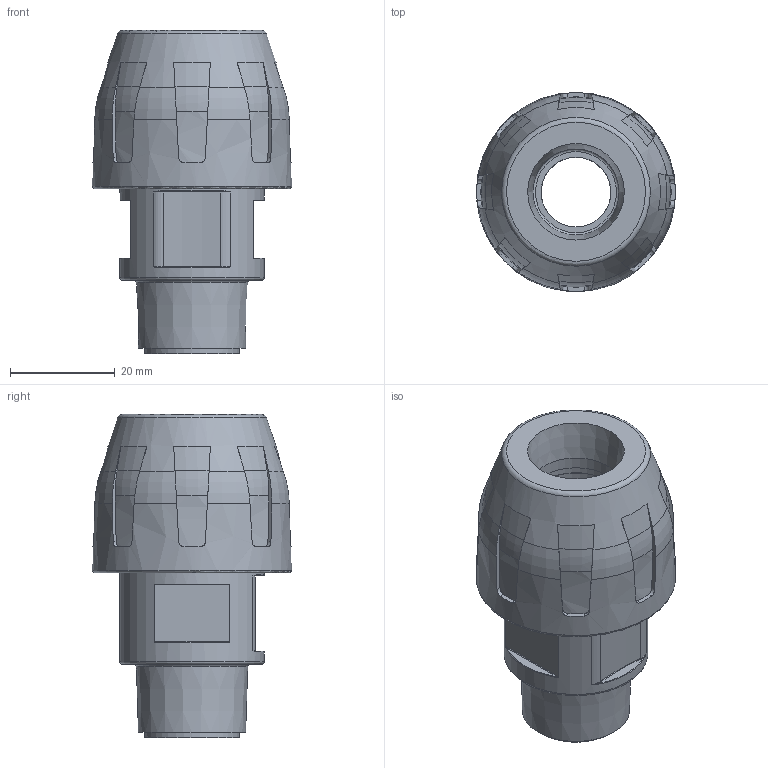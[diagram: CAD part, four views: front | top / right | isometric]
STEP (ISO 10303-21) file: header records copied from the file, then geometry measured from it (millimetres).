
FILE_DESCRIPTION( ( 'STEP AP214' ), '1' );
FILE_NAME( ' ', ' ', ( ' ' ), ( ' ' ), 'PSStep 11.0', 'VISI 17.0', ' ' );
FILE_SCHEMA( ( 'AUTOMOTIVE_DESIGN { 1 0 10303 214 1 1 1 1 }' ) );
Length unit declared in the file: millimetre
Products named in the file (2): 1; 2
Bounding box: 38.12 x 38.1 x 61.8 mm (x, y, z)
Volume: 33242.2 mm3; surface area: 15498 mm2
Topology: 2 solids, 2 shells, 233 faces, 633 edges, 411 vertices
Faces by surface type: plane 105, cone 47, cylinder 35, bspline 26, torus 20
Full cylindrical faces by diameter (mm): 13.342 x1, 16.5 x2, 27.6 x2, 28.5 x2, 28.9 x1, 31 x1, 34.736 x1
Entity records: 10967 total; most frequent: CARTESIAN_POINT 3711, ORIENTED_EDGE 1164, DIRECTION 1048, EDGE_CURVE 582, AXIS2_PLACEMENT_3D 459, VERTEX_POINT 394, EDGE_LOOP 278, FACE_OUTER_BOUND 251
